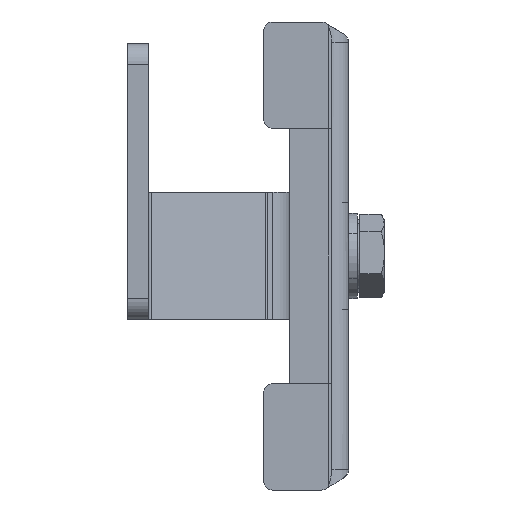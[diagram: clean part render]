
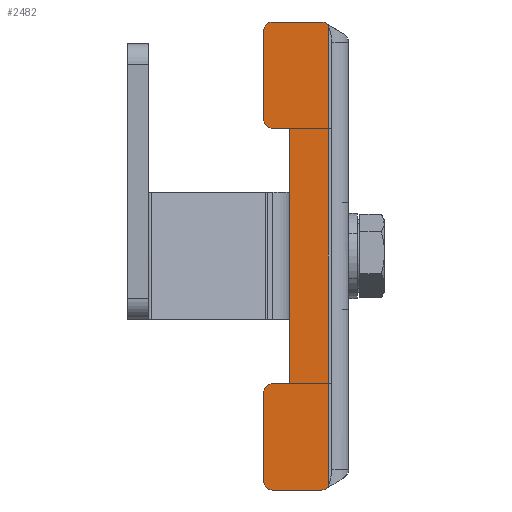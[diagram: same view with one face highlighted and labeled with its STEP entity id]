
A CAD part, left-side view. The second image highlights one B-rep face of the part: STEP entity #2482.
In plain terms, the highlighted planar face has unit normal (-1, 0, 0) as drawn and (0, 0, -1) by its records, which use the part's own axes.
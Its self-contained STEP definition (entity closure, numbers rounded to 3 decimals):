
#230=PLANE('',#2817);
#317=FACE_OUTER_BOUND('',#466,.T.);
#466=EDGE_LOOP('',(#1797,#1798,#1799,#1800,#1801,#1802,#1803,#1804,#1805,
#1806,#1807,#1808,#1809,#1810,#1811,#1812));
#624=LINE('',#3933,#828);
#633=LINE('',#3996,#837);
#640=LINE('',#4016,#844);
#643=LINE('',#4021,#847);
#644=LINE('',#4025,#848);
#645=LINE('',#4029,#849);
#646=LINE('',#4033,#850);
#647=LINE('',#4035,#851);
#648=LINE('',#4037,#852);
#649=LINE('',#4041,#853);
#828=VECTOR('',#3147,10.);
#837=VECTOR('',#3158,10.);
#844=VECTOR('',#3175,2.61);
#847=VECTOR('',#3180,10.);
#848=VECTOR('',#3183,2.61);
#849=VECTOR('',#3186,10.);
#850=VECTOR('',#3189,10.);
#851=VECTOR('',#3190,10.);
#852=VECTOR('',#3191,10.);
#853=VECTOR('',#3194,10.);
#1026=CIRCLE('',#2814,2.);
#1028=CIRCLE('',#2818,2.);
#1029=CIRCLE('',#2819,2.);
#1030=CIRCLE('',#2820,2.);
#1031=CIRCLE('',#2821,2.);
#1032=CIRCLE('',#2822,2.);
#1150=VERTEX_POINT('',#3930);
#1151=VERTEX_POINT('',#3932);
#1153=VERTEX_POINT('',#3961);
#1160=VERTEX_POINT('',#3994);
#1166=VERTEX_POINT('',#4009);
#1168=VERTEX_POINT('',#4015);
#1170=VERTEX_POINT('',#4022);
#1171=VERTEX_POINT('',#4024);
#1172=VERTEX_POINT('',#4026);
#1173=VERTEX_POINT('',#4028);
#1174=VERTEX_POINT('',#4030);
#1175=VERTEX_POINT('',#4032);
#1176=VERTEX_POINT('',#4034);
#1177=VERTEX_POINT('',#4036);
#1178=VERTEX_POINT('',#4038);
#1179=VERTEX_POINT('',#4040);
#1388=EDGE_CURVE('',#1151,#1150,#624,.T.);
#1399=EDGE_CURVE('',#1153,#1160,#633,.T.);
#1405=EDGE_CURVE('',#1151,#1166,#1026,.T.);
#1408=EDGE_CURVE('',#1166,#1168,#640,.T.);
#1411=EDGE_CURVE('',#1150,#1153,#643,.T.);
#1412=EDGE_CURVE('',#1170,#1160,#1028,.T.);
#1413=EDGE_CURVE('',#1170,#1171,#644,.T.);
#1414=EDGE_CURVE('',#1172,#1171,#1029,.T.);
#1415=EDGE_CURVE('',#1172,#1173,#645,.T.);
#1416=EDGE_CURVE('',#1174,#1173,#1030,.T.);
#1417=EDGE_CURVE('',#1174,#1175,#646,.T.);
#1418=EDGE_CURVE('',#1175,#1176,#647,.T.);
#1419=EDGE_CURVE('',#1176,#1177,#648,.T.);
#1420=EDGE_CURVE('',#1178,#1177,#1031,.T.);
#1421=EDGE_CURVE('',#1178,#1179,#649,.T.);
#1422=EDGE_CURVE('',#1168,#1179,#1032,.T.);
#1797=ORIENTED_EDGE('',*,*,#1405,.F.);
#1798=ORIENTED_EDGE('',*,*,#1388,.T.);
#1799=ORIENTED_EDGE('',*,*,#1411,.T.);
#1800=ORIENTED_EDGE('',*,*,#1399,.T.);
#1801=ORIENTED_EDGE('',*,*,#1412,.F.);
#1802=ORIENTED_EDGE('',*,*,#1413,.T.);
#1803=ORIENTED_EDGE('',*,*,#1414,.F.);
#1804=ORIENTED_EDGE('',*,*,#1415,.T.);
#1805=ORIENTED_EDGE('',*,*,#1416,.F.);
#1806=ORIENTED_EDGE('',*,*,#1417,.T.);
#1807=ORIENTED_EDGE('',*,*,#1418,.T.);
#1808=ORIENTED_EDGE('',*,*,#1419,.T.);
#1809=ORIENTED_EDGE('',*,*,#1420,.F.);
#1810=ORIENTED_EDGE('',*,*,#1421,.T.);
#1811=ORIENTED_EDGE('',*,*,#1422,.F.);
#1812=ORIENTED_EDGE('',*,*,#1408,.F.);
#2482=ADVANCED_FACE('',(#317),#230,.F.);
#2814=AXIS2_PLACEMENT_3D('',#4010,#3168,#3169);
#2817=AXIS2_PLACEMENT_3D('',#4020,#3178,#3179);
#2818=AXIS2_PLACEMENT_3D('',#4023,#3181,#3182);
#2819=AXIS2_PLACEMENT_3D('',#4027,#3184,#3185);
#2820=AXIS2_PLACEMENT_3D('',#4031,#3187,#3188);
#2821=AXIS2_PLACEMENT_3D('',#4039,#3192,#3193);
#2822=AXIS2_PLACEMENT_3D('',#4042,#3195,#3196);
#3147=DIRECTION('',(-0.707,-0.707,0.));
#3158=DIRECTION('',(-0.707,0.707,0.));
#3168=DIRECTION('center_axis',(0.,0.,
1.));
#3169=DIRECTION('ref_axis',(0.924,-0.383,0.));
#3175=DIRECTION('',(0.,1.,0.));
#3178=DIRECTION('center_axis',(0.,0.,
1.));
#3179=DIRECTION('ref_axis',(0.,-1.,0.));
#3180=DIRECTION('',(-1.,0.,0.));
#3181=DIRECTION('center_axis',(0.,0.,
1.));
#3182=DIRECTION('ref_axis',(-0.924,-0.383,0.));
#3183=DIRECTION('',(0.,1.,0.));
#3184=DIRECTION('center_axis',(0.,0.,
1.));
#3185=DIRECTION('ref_axis',(-0.707,0.707,0.));
#3186=DIRECTION('',(1.,0.,0.));
#3187=DIRECTION('center_axis',(0.,0.,
1.));
#3188=DIRECTION('ref_axis',(0.707,0.707,0.));
#3189=DIRECTION('',(0.,-1.,0.));
#3190=DIRECTION('',(1.,0.,0.));
#3191=DIRECTION('',(0.,1.,0.));
#3192=DIRECTION('center_axis',(0.,0.,
1.));
#3193=DIRECTION('ref_axis',(-0.707,0.707,0.));
#3194=DIRECTION('',(1.,0.,0.));
#3195=DIRECTION('center_axis',(0.,0.,
1.));
#3196=DIRECTION('ref_axis',(0.707,0.707,0.));
#3930=CARTESIAN_POINT('',(54.3,4.8,0.));
#3932=CARTESIAN_POINT('',(54.414,4.914,0.));
#3933=CARTESIAN_POINT('',(25.303,-24.197,0.));
#3961=CARTESIAN_POINT('',(-54.3,4.8,0.));
#3994=CARTESIAN_POINT('',(-54.414,4.914,0.));
#3996=CARTESIAN_POINT('',(-32.5,-17.,0.));
#4009=CARTESIAN_POINT('',(55.,6.328,0.));
#4010=CARTESIAN_POINT('Origin',(53.,6.328,0.));
#4015=CARTESIAN_POINT('',(55.,18.,0.));
#4016=CARTESIAN_POINT('',(55.,-3.4,0.));
#4020=CARTESIAN_POINT('Origin',(-44.393,-13.893,0.));
#4021=CARTESIAN_POINT('',(0.,4.8,0.));
#4022=CARTESIAN_POINT('',(-55.,6.328,0.));
#4023=CARTESIAN_POINT('Origin',(-53.,6.328,0.));
#4024=CARTESIAN_POINT('',(-55.,18.,0.));
#4025=CARTESIAN_POINT('',(-55.,-3.4,0.));
#4026=CARTESIAN_POINT('',(-53.,20.,0.));
#4027=CARTESIAN_POINT('Origin',(-53.,18.,0.));
#4028=CARTESIAN_POINT('',(-32.,20.,0.));
#4029=CARTESIAN_POINT('',(-55.,20.,0.));
#4030=CARTESIAN_POINT('',(-30.,18.,0.));
#4031=CARTESIAN_POINT('Origin',(-32.,18.,0.));
#4032=CARTESIAN_POINT('',(-30.,14.,0.));
#4033=CARTESIAN_POINT('',(-30.,15.175,0.));
#4034=CARTESIAN_POINT('',(30.,14.,0.));
#4035=CARTESIAN_POINT('',(-15.,14.,0.));
#4036=CARTESIAN_POINT('',(30.,18.,0.));
#4037=CARTESIAN_POINT('',(30.,12.175,0.));
#4038=CARTESIAN_POINT('',(32.,20.,0.));
#4039=CARTESIAN_POINT('Origin',(32.,18.,0.));
#4040=CARTESIAN_POINT('',(53.,20.,0.));
#4041=CARTESIAN_POINT('',(-55.,20.,0.));
#4042=CARTESIAN_POINT('Origin',(53.,18.,0.));
